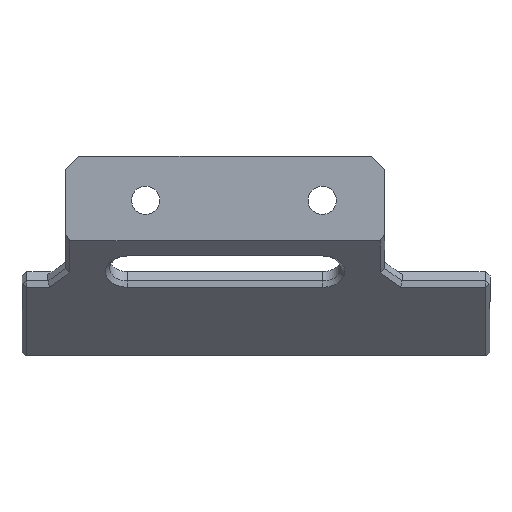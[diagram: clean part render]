
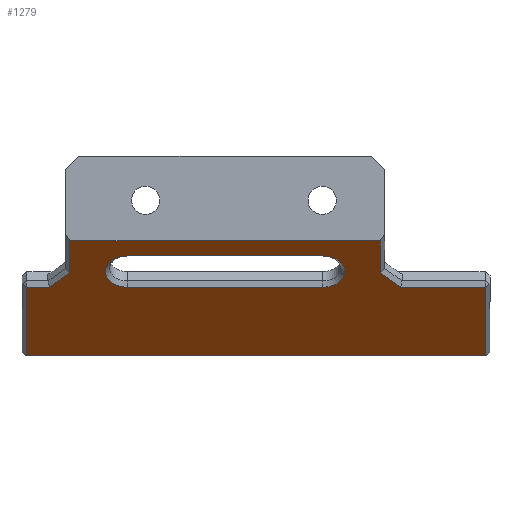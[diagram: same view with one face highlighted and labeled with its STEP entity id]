
A CAD part, front view. The second image highlights one B-rep face of the part: STEP entity #1279.
In plain terms, the highlighted planar face has unit normal (0, -0.707, -0.707).
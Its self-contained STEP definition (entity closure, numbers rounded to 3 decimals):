
#4 = ORIENTED_EDGE ( 'NONE', *, *, #1155, .T. ) ;
#24 = DIRECTION ( 'NONE',  ( 0., 0.707, 0.707 ) ) ;
#37 = EDGE_LOOP ( 'NONE', ( #685, #57, #1094, #1712, #2185, #2445, #325, #2332, #852, #4 ) ) ;
#38 = VECTOR ( 'NONE', #2114, 1000. ) ;
#57 = ORIENTED_EDGE ( 'NONE', *, *, #2407, .T. ) ;
#71 = CIRCLE ( 'NONE', #1026, 2.5 ) ;
#97 = EDGE_CURVE ( 'NONE', #1236, #233, #117, .T. ) ;
#117 = LINE ( 'NONE', #707, #1356 ) ;
#163 = CARTESIAN_POINT ( 'NONE',  ( -12.069, 1.707, -6.307 ) ) ;
#209 = AXIS2_PLACEMENT_3D ( 'NONE', #1183, #24, #827 ) ;
#233 = VERTEX_POINT ( 'NONE', #328 ) ;
#286 = CARTESIAN_POINT ( 'NONE',  ( -12.069, 3.475, -8.075 ) ) ;
#297 = EDGE_CURVE ( 'NONE', #1860, #1236, #2458, .T. ) ;
#325 = ORIENTED_EDGE ( 'NONE', *, *, #297, .T. ) ;
#328 = CARTESIAN_POINT ( 'NONE',  ( 18.862, 5.243, -9.843 ) ) ;
#343 = CARTESIAN_POINT ( 'NONE',  ( -23.5, 5.243, -9.843 ) ) ;
#356 = DIRECTION ( 'NONE',  ( -1., 0., 0. ) ) ;
#374 = CARTESIAN_POINT ( 'NONE',  ( -12.069, 5.243, -9.843 ) ) ;
#393 = CARTESIAN_POINT ( 'NONE',  ( 4.097, -5.197, 0.597 ) ) ;
#406 = CARTESIAN_POINT ( 'NONE',  ( -18.569, -2.3, -2.3 ) ) ;
#409 = VERTEX_POINT ( 'NONE', #1764 ) ;
#410 = VECTOR ( 'NONE', #745, 1000. ) ;
#419 = VECTOR ( 'NONE', #1545, 1000. ) ;
#460 = VERTEX_POINT ( 'NONE', #1572 ) ;
#467 = EDGE_CURVE ( 'NONE', #233, #460, #534, .T. ) ;
#487 = CARTESIAN_POINT ( 'NONE',  ( 17.069, 0., -4.6 ) ) ;
#491 = VECTOR ( 'NONE', #2240, 1000. ) ;
#499 = CARTESIAN_POINT ( 'NONE',  ( -18.569, 0., -4.6 ) ) ;
#534 = LINE ( 'NONE', #393, #1451 ) ;
#552 = LINE ( 'NONE', #2532, #38 ) ;
#558 = LINE ( 'NONE', #487, #2392 ) ;
#599 = DIRECTION ( 'NONE',  ( 0., -0.707, 0.707 ) ) ;
#630 = DIRECTION ( 'NONE',  ( -0.707, 0.5, -0.5 ) ) ;
#680 = CIRCLE ( 'NONE', #1488, 2.5 ) ;
#685 = ORIENTED_EDGE ( 'NONE', *, *, #1400, .T. ) ;
#695 = VERTEX_POINT ( 'NONE', #343 ) ;
#696 = DIRECTION ( 'NONE',  ( 0., 0.707, 0.707 ) ) ;
#706 = DIRECTION ( 'NONE',  ( 0., -0.707, 0.707 ) ) ;
#707 = CARTESIAN_POINT ( 'NONE',  ( 0., 5.243, -9.843 ) ) ;
#732 = ORIENTED_EDGE ( 'NONE', *, *, #1874, .T. ) ;
#738 = LINE ( 'NONE', #406, #1049 ) ;
#745 = DIRECTION ( 'NONE',  ( 0., -0.707, 0.707 ) ) ;
#753 = VERTEX_POINT ( 'NONE', #2088 ) ;
#770 = VECTOR ( 'NONE', #961, 1000. ) ;
#806 = VECTOR ( 'NONE', #2325, 1000. ) ;
#820 = ORIENTED_EDGE ( 'NONE', *, *, #1358, .T. ) ;
#827 = DIRECTION ( 'NONE',  ( 0., -0.707, 0.707 ) ) ;
#852 = ORIENTED_EDGE ( 'NONE', *, *, #467, .T. ) ;
#863 = ORIENTED_EDGE ( 'NONE', *, *, #878, .T. ) ;
#878 = EDGE_CURVE ( 'NONE', #1754, #753, #71, .T. ) ;
#899 = DIRECTION ( 'NONE',  ( -1., 0., 0. ) ) ;
#931 = VERTEX_POINT ( 'NONE', #499 ) ;
#961 = DIRECTION ( 'NONE',  ( 1., 0., 0. ) ) ;
#989 = DIRECTION ( 'NONE',  ( 0., 0.707, 0.707 ) ) ;
#1016 = VERTEX_POINT ( 'NONE', #2256 ) ;
#1026 = AXIS2_PLACEMENT_3D ( 'NONE', #1585, #989, #599 ) ;
#1042 = CARTESIAN_POINT ( 'NONE',  ( -18.569, 3.621, -8.221 ) ) ;
#1046 = LINE ( 'NONE', #1619, #1806 ) ;
#1049 = VECTOR ( 'NONE', #1951, 1000. ) ;
#1094 = ORIENTED_EDGE ( 'NONE', *, *, #1982, .T. ) ;
#1155 = EDGE_CURVE ( 'NONE', #460, #1016, #2233, .T. ) ;
#1183 = CARTESIAN_POINT ( 'NONE',  ( 0., -2.3, -2.3 ) ) ;
#1236 = VERTEX_POINT ( 'NONE', #1940 ) ;
#1279 = ADVANCED_FACE ( 'NONE', ( #1679, #1530 ), #2368, .F. ) ;
#1293 = VERTEX_POINT ( 'NONE', #2323 ) ;
#1322 = VERTEX_POINT ( 'NONE', #163 ) ;
#1356 = VECTOR ( 'NONE', #899, 1000. ) ;
#1358 = EDGE_CURVE ( 'NONE', #2439, #1322, #680, .T. ) ;
#1385 = ORIENTED_EDGE ( 'NONE', *, *, #1492, .T. ) ;
#1400 = EDGE_CURVE ( 'NONE', #1016, #931, #558, .T. ) ;
#1435 = EDGE_CURVE ( 'NONE', #1293, #1860, #1749, .T. ) ;
#1451 = VECTOR ( 'NONE', #1930, 1000. ) ;
#1478 = CARTESIAN_POINT ( 'NONE',  ( 0., 5.243, -9.843 ) ) ;
#1488 = AXIS2_PLACEMENT_3D ( 'NONE', #286, #696, #706 ) ;
#1492 = EDGE_CURVE ( 'NONE', #753, #2439, #1807, .T. ) ;
#1500 = CARTESIAN_POINT ( 'NONE',  ( -23.5, -2.3, -2.3 ) ) ;
#1516 = LINE ( 'NONE', #1500, #419 ) ;
#1530 = FACE_OUTER_BOUND ( 'NONE', #37, .T. ) ;
#1535 = CARTESIAN_POINT ( 'NONE',  ( -12.069, 5.243, -9.843 ) ) ;
#1545 = DIRECTION ( 'NONE',  ( 0., 0.707, -0.707 ) ) ;
#1572 = CARTESIAN_POINT ( 'NONE',  ( 16.569, 3.621, -8.221 ) ) ;
#1585 = CARTESIAN_POINT ( 'NONE',  ( 10.069, 3.475, -8.075 ) ) ;
#1599 = LINE ( 'NONE', #1478, #491 ) ;
#1619 = CARTESIAN_POINT ( 'NONE',  ( -5.097, -5.904, 1.304 ) ) ;
#1625 = EDGE_CURVE ( 'NONE', #409, #695, #1599, .T. ) ;
#1679 = FACE_BOUND ( 'NONE', #2322, .T. ) ;
#1712 = ORIENTED_EDGE ( 'NONE', *, *, #1625, .T. ) ;
#1748 = CARTESIAN_POINT ( 'NONE',  ( 28.5, 13.021, -17.621 ) ) ;
#1749 = LINE ( 'NONE', #2100, #770 ) ;
#1754 = VERTEX_POINT ( 'NONE', #1902 ) ;
#1764 = CARTESIAN_POINT ( 'NONE',  ( -20.862, 5.243, -9.843 ) ) ;
#1806 = VECTOR ( 'NONE', #630, 1000. ) ;
#1807 = LINE ( 'NONE', #1535, #2077 ) ;
#1860 = VERTEX_POINT ( 'NONE', #1748 ) ;
#1874 = EDGE_CURVE ( 'NONE', #1322, #1754, #552, .T. ) ;
#1902 = CARTESIAN_POINT ( 'NONE',  ( 10.069, 1.707, -6.307 ) ) ;
#1915 = CARTESIAN_POINT ( 'NONE',  ( 28.5, -2.3, -2.3 ) ) ;
#1930 = DIRECTION ( 'NONE',  ( -0.707, -0.5, 0.5 ) ) ;
#1940 = CARTESIAN_POINT ( 'NONE',  ( 28.5, 5.243, -9.843 ) ) ;
#1951 = DIRECTION ( 'NONE',  ( 0., 0.707, -0.707 ) ) ;
#1982 = EDGE_CURVE ( 'NONE', #1983, #409, #1046, .T. ) ;
#1983 = VERTEX_POINT ( 'NONE', #1042 ) ;
#2077 = VECTOR ( 'NONE', #356, 1000. ) ;
#2088 = CARTESIAN_POINT ( 'NONE',  ( 10.069, 5.243, -9.843 ) ) ;
#2100 = CARTESIAN_POINT ( 'NONE',  ( 0., 13.021, -17.621 ) ) ;
#2114 = DIRECTION ( 'NONE',  ( 1., 0., 0. ) ) ;
#2185 = ORIENTED_EDGE ( 'NONE', *, *, #2333, .T. ) ;
#2213 = DIRECTION ( 'NONE',  ( -1., 0., 0. ) ) ;
#2233 = LINE ( 'NONE', #2510, #806 ) ;
#2240 = DIRECTION ( 'NONE',  ( -1., 0., 0. ) ) ;
#2256 = CARTESIAN_POINT ( 'NONE',  ( 16.569, 0., -4.6 ) ) ;
#2322 = EDGE_LOOP ( 'NONE', ( #1385, #820, #732, #863 ) ) ;
#2323 = CARTESIAN_POINT ( 'NONE',  ( -23.5, 13.021, -17.621 ) ) ;
#2325 = DIRECTION ( 'NONE',  ( 0., -0.707, 0.707 ) ) ;
#2332 = ORIENTED_EDGE ( 'NONE', *, *, #97, .T. ) ;
#2333 = EDGE_CURVE ( 'NONE', #695, #1293, #1516, .T. ) ;
#2368 = PLANE ( 'NONE',  #209 ) ;
#2392 = VECTOR ( 'NONE', #2213, 1000. ) ;
#2407 = EDGE_CURVE ( 'NONE', #931, #1983, #738, .T. ) ;
#2439 = VERTEX_POINT ( 'NONE', #374 ) ;
#2445 = ORIENTED_EDGE ( 'NONE', *, *, #1435, .T. ) ;
#2458 = LINE ( 'NONE', #1915, #410 ) ;
#2510 = CARTESIAN_POINT ( 'NONE',  ( 16.569, -2.3, -2.3 ) ) ;
#2532 = CARTESIAN_POINT ( 'NONE',  ( 10.069, 1.707, -6.307 ) ) ;
